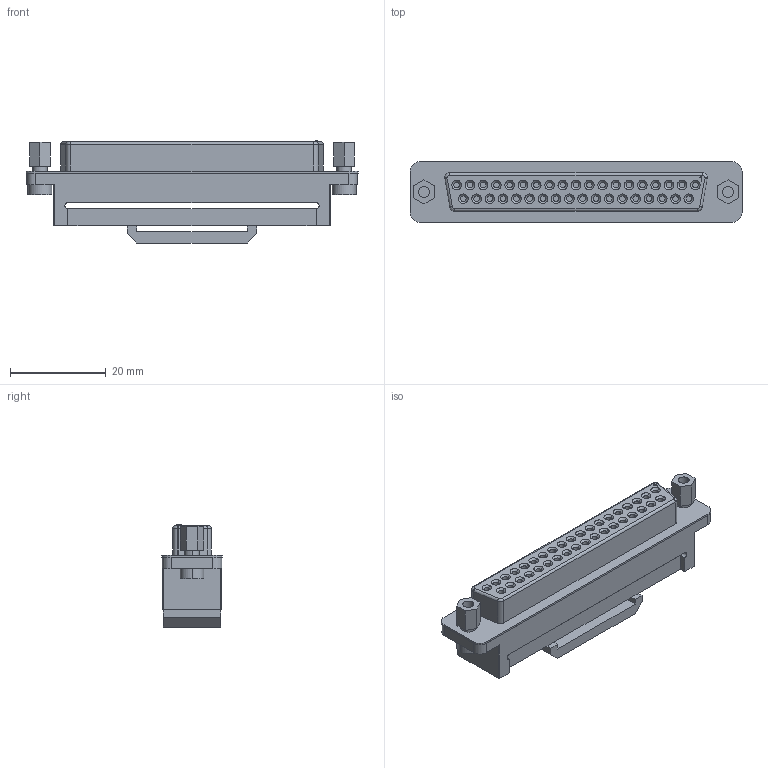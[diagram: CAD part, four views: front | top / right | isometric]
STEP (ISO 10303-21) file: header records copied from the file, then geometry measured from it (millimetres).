
FILE_DESCRIPTION (( 'STEP AP214' ), '1' );
FILE_NAME ('DI-37F.STEP', '2011-05-17T10:19:46', ( 'vpeshkov' ), ( 'licard' ), 'SwSTEP 2.0', 'SolidWorks 2009', '' );
FILE_SCHEMA (( 'AUTOMOTIVE_DESIGN' ));
Length unit declared in the file: millimetre
Products named in the file (1): DI-37F
Bounding box: 69.32 x 12.6 x 21.3 mm (x, y, z)
Volume: 9979.6 mm3; surface area: 7098.9 mm2
Topology: 1 solids, 1 shells, 313 faces, 704 edges, 435 vertices
Faces by surface type: plane 119, cylinder 114, cone 74, torus 6
Entity records: 9492 total; most frequent: DIRECTION 1643, CARTESIAN_POINT 1453, ORIENTED_EDGE 1408, EDGE_CURVE 704, AXIS2_PLACEMENT_3D 625, VERTEX_POINT 435, VECTOR 393, LINE 393
